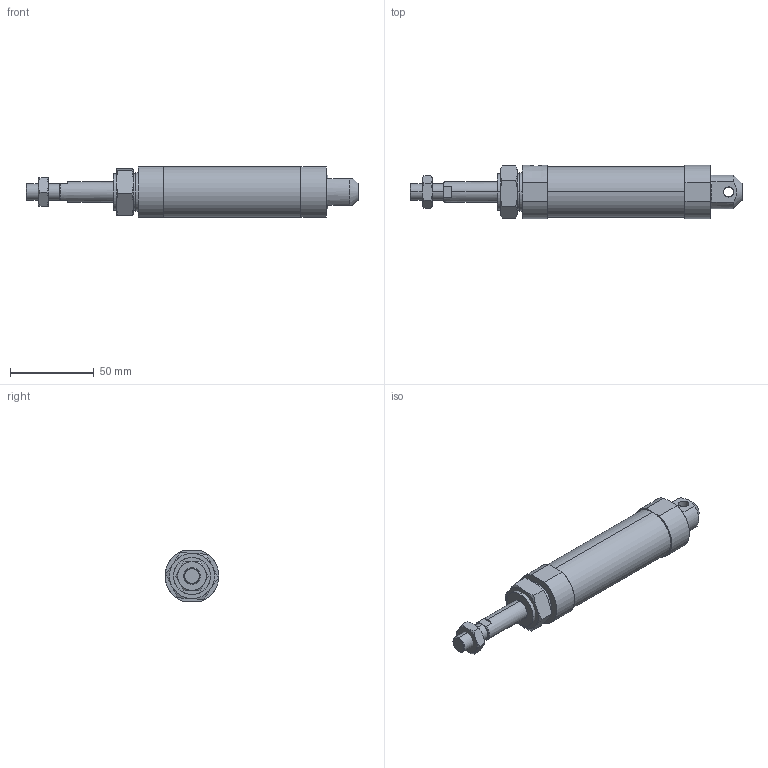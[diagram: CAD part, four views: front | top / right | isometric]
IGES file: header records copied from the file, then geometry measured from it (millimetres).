
Start section: SolidWorks IGES file using analytic representation for surfaces
Global section: file name: C:\Users\Toshiba\Desktop\J#0-25-25-C.IGS; native system: SolidWorks 2014; preprocessor: SolidWorks 2014; author: Toshiba; date: 160308.143334; units: millimetre
Bounding box: 198 x 32 x 30 mm (x, y, z)
Surface area: 19984.2 mm2 (no closed solid volume)
Topology: 0 solids, 0 shells, 95 faces, 1746 edges, 1746 vertices
Faces by surface type: bspline 65, revolution 30
